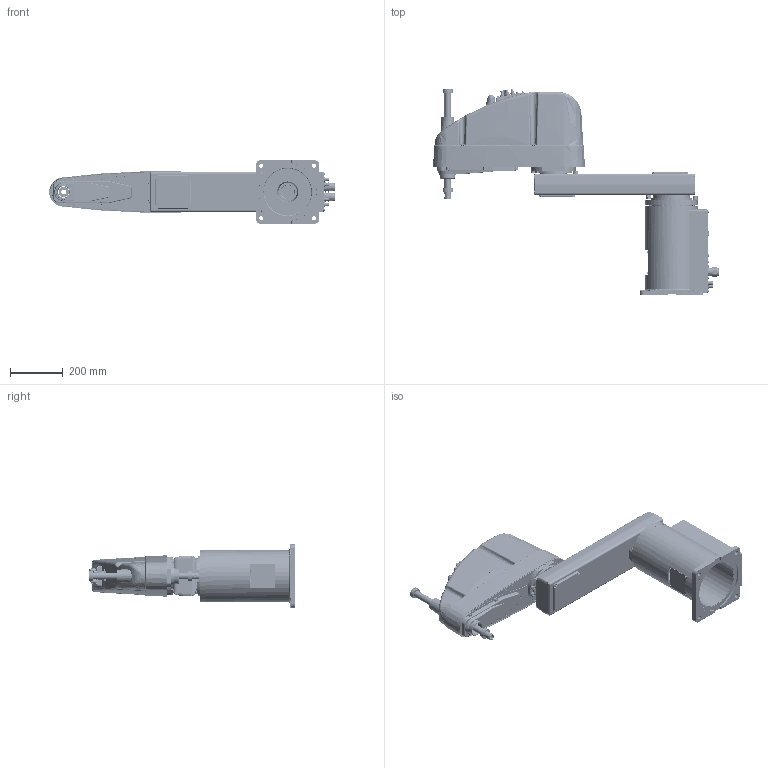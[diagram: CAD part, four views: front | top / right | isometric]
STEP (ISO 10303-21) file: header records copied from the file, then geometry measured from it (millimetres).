
FILE_DESCRIPTION((''),'2;1');
FILE_NAME('C_G10-851S_ASM','2008-02-27T',('0179539'),(''),'PRO/ENGINEER BY PARAMETRIC TECHNOLOGY CORPORATION, 2004090','PRO/ENGINEER BY PARAMETRIC TECHNOLOGY CORPORATION, 2004090','');
FILE_SCHEMA(('CONFIG_CONTROL_DESIGN'));
Length unit declared in the file: millimetre
Products named in the file (5): BASE1_L; ARM1_L85; BODY_L; ZL_1; C_G10-851S_ASM
Assembly tree (4 placements, depth 2):
  C_G10-851S_ASM
    BASE1_L
    ARM1_L85
    BODY_L
    ZL_1
Bounding box: 1084.34 x 783.5 x 240 mm (x, y, z)
Volume: 10169011.6 mm3; surface area: 2982541.5 mm2
Topology: 6 solids, 6 shells, 4795 faces, 12035 edges, 7657 vertices
Faces by surface type: plane 2249, cylinder 1527, cone 478, bspline 302, torus 188, extrusion 49, sphere 2
Entity records: 171297 total; most frequent: CARTESIAN_POINT 56098, ORIENTED_EDGE 23918, DIRECTION 23804, EDGE_CURVE 11959, AXIS2_PLACEMENT_3D 8546, VERTEX_POINT 7657, VECTOR 6712, LINE 6663
